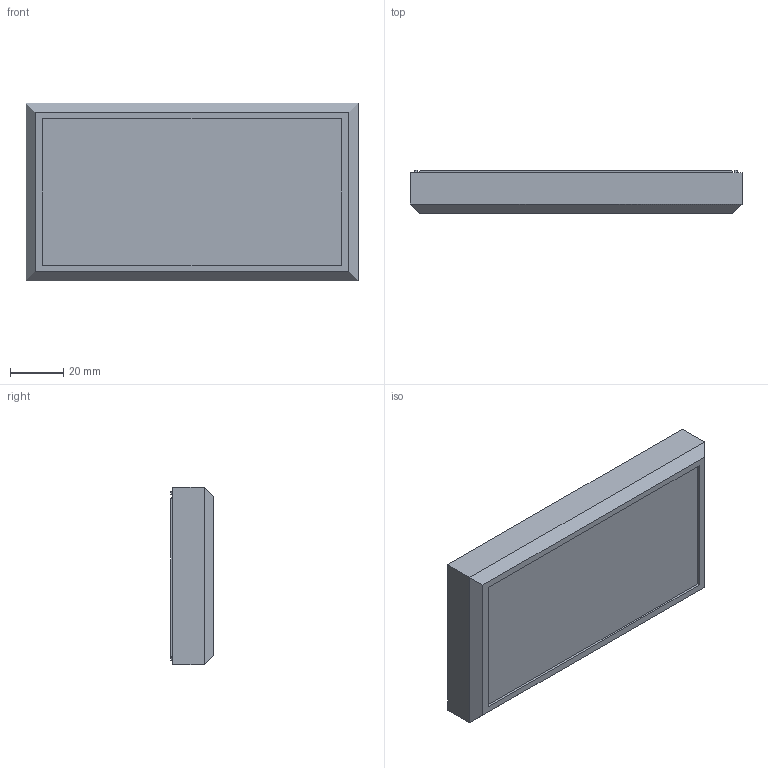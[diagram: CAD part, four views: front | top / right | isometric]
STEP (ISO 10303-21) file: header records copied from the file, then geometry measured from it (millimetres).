
FILE_DESCRIPTION (( 'STEP AP214' ), '1' );
FILE_NAME ('Tapa PP61A.STEP', '2017-07-27T09:34:12', ( 'aaa' ), ( '' ), 'SwSTEP 2.0', 'SolidWorks 2013', '' );
FILE_SCHEMA (( 'AUTOMOTIVE_DESIGN' ));
Length unit declared in the file: millimetre
Products named in the file (1): Tapa PP61A
Bounding box: 125 x 16.15 x 67 mm (x, y, z)
Volume: 38062.6 mm3; surface area: 28583.8 mm2
Topology: 1 solids, 1 shells, 108 faces, 236 edges, 156 vertices
Faces by surface type: plane 60, cylinder 48
Entity records: 3018 total; most frequent: DIRECTION 550, CARTESIAN_POINT 501, ORIENTED_EDGE 472, EDGE_CURVE 236, AXIS2_PLACEMENT_3D 205, VERTEX_POINT 156, LINE 140, VECTOR 140
